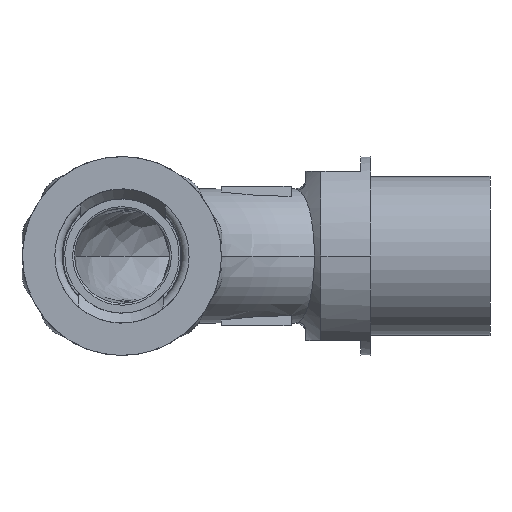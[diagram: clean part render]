
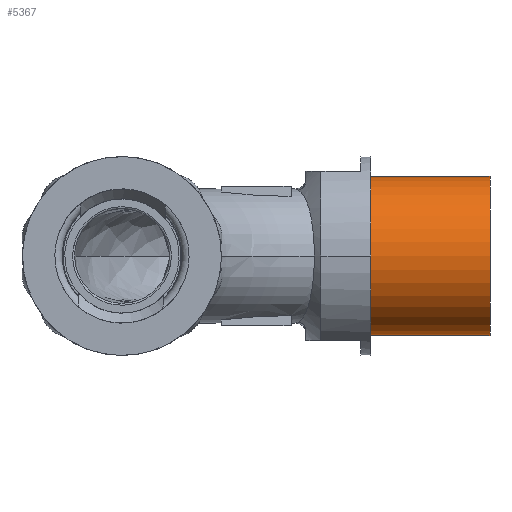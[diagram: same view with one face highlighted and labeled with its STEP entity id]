
A CAD part, front view. The second image highlights one B-rep face of the part: STEP entity #5367.
In plain terms, the highlighted cylindrical face has radius 8 mm (diameter 16 mm), a partial arc.
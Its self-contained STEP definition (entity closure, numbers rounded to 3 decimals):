
#51 = DIRECTION ( 'NONE',  ( 1., 0., 0. ) ) ;
#227 = VERTEX_POINT ( 'NONE', #1124 ) ;
#354 = EDGE_CURVE ( 'NONE', #6915, #3468, #4202, .T. ) ;
#677 = CYLINDRICAL_SURFACE ( 'NONE', #7093, 8. ) ;
#827 = CARTESIAN_POINT ( 'NONE',  ( 25., 28.168, -8. ) ) ;
#835 = CARTESIAN_POINT ( 'NONE',  ( 25., 28.168, 0. ) ) ;
#906 = EDGE_LOOP ( 'NONE', ( #2406, #7858, #2024, #7754 ) ) ;
#921 = AXIS2_PLACEMENT_3D ( 'NONE', #835, #4540, #7577 ) ;
#1078 = FACE_OUTER_BOUND ( 'NONE', #906, .T. ) ;
#1124 = CARTESIAN_POINT ( 'NONE',  ( 37., 28.168, -8. ) ) ;
#1721 = CARTESIAN_POINT ( 'NONE',  ( 37., 28.168, 0. ) ) ;
#1748 = DIRECTION ( 'NONE',  ( 1., 0., 0. ) ) ;
#2024 = ORIENTED_EDGE ( 'NONE', *, *, #6786, .T. ) ;
#2253 = CARTESIAN_POINT ( 'NONE',  ( 25., 28.168, 8. ) ) ;
#2406 = ORIENTED_EDGE ( 'NONE', *, *, #354, .F. ) ;
#2717 = DIRECTION ( 'NONE',  ( 1., 0., 0. ) ) ;
#2845 = EDGE_CURVE ( 'NONE', #7129, #6915, #6751, .T. ) ;
#3203 = CARTESIAN_POINT ( 'NONE',  ( 25., 28.168, 8. ) ) ;
#3312 = DIRECTION ( 'NONE',  ( 0., 0., -1. ) ) ;
#3394 = CARTESIAN_POINT ( 'NONE',  ( 37., 28.168, 8. ) ) ;
#3451 = AXIS2_PLACEMENT_3D ( 'NONE', #1721, #1748, #3639 ) ;
#3468 = VERTEX_POINT ( 'NONE', #3394 ) ;
#3639 = DIRECTION ( 'NONE',  ( 0., 0., -1. ) ) ;
#4202 = LINE ( 'NONE', #3203, #6670 ) ;
#4350 = VECTOR ( 'NONE', #6920, 1000. ) ;
#4540 = DIRECTION ( 'NONE',  ( -1., 0., 0. ) ) ;
#5107 = CARTESIAN_POINT ( 'NONE',  ( 25., 28.168, 0. ) ) ;
#5367 = ADVANCED_FACE ( 'NONE', ( #1078 ), #677, .T. ) ;
#6670 = VECTOR ( 'NONE', #51, 1000. ) ;
#6751 = CIRCLE ( 'NONE', #921, 8. ) ;
#6786 = EDGE_CURVE ( 'NONE', #7129, #227, #7714, .T. ) ;
#6857 = CARTESIAN_POINT ( 'NONE',  ( 25., 28.168, -8. ) ) ;
#6915 = VERTEX_POINT ( 'NONE', #2253 ) ;
#6920 = DIRECTION ( 'NONE',  ( 1., 0., 0. ) ) ;
#7093 = AXIS2_PLACEMENT_3D ( 'NONE', #5107, #2717, #3312 ) ;
#7129 = VERTEX_POINT ( 'NONE', #6857 ) ;
#7577 = DIRECTION ( 'NONE',  ( 0., 1., 0. ) ) ;
#7607 = CIRCLE ( 'NONE', #3451, 8. ) ;
#7714 = LINE ( 'NONE', #827, #4350 ) ;
#7754 = ORIENTED_EDGE ( 'NONE', *, *, #7919, .F. ) ;
#7858 = ORIENTED_EDGE ( 'NONE', *, *, #2845, .F. ) ;
#7919 = EDGE_CURVE ( 'NONE', #3468, #227, #7607, .T. ) ;
